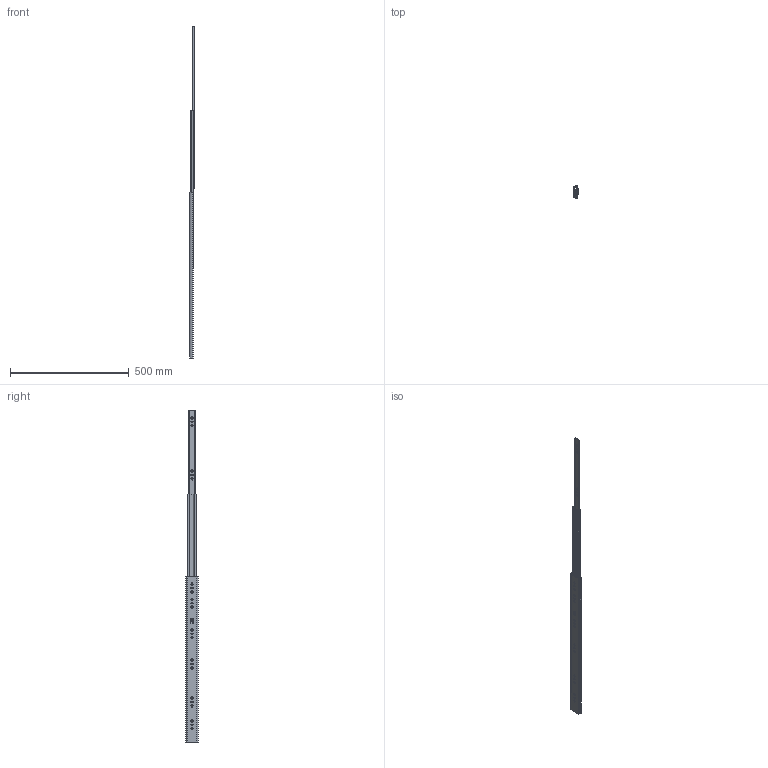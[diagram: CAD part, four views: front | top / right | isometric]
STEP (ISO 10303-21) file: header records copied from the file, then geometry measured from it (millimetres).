
FILE_DESCRIPTION (( 'STEP AP214' ), '1' );
FILE_NAME ('DSCHMD700MM-OPEN.STEP', '2019-12-16T04:59:26', ( '' ), ( '' ), 'SwSTEP 2.0', 'SolidWorks 2017', '' );
FILE_SCHEMA (( 'AUTOMOTIVE_DESIGN' ));
Length unit declared in the file: millimetre
Products named in the file (4): DSCHMD-3_700; DSCHMD-1_700; DSCHMD-2_700; DSCHMD700MM-OPEN
Assembly tree (3 placements, depth 2):
  DSCHMD700MM-OPEN
    DSCHMD-3_700
    DSCHMD-2_700
    DSCHMD-1_700
Bounding box: 18.7 x 53 x 1400 mm (x, y, z)
Volume: 233373.7 mm3; surface area: 244638.6 mm2
Topology: 3 solids, 3 shells, 1166 faces, 3282 edges, 2188 vertices
Faces by surface type: plane 611, cylinder 238, bspline 237, cone 80
Entity records: 39586 total; most frequent: CARTESIAN_POINT 10551, ORIENTED_EDGE 6564, DIRECTION 5074, EDGE_CURVE 3282, VERTEX_POINT 2188, LINE 2092, VECTOR 2092, AXIS2_PLACEMENT_3D 1491
